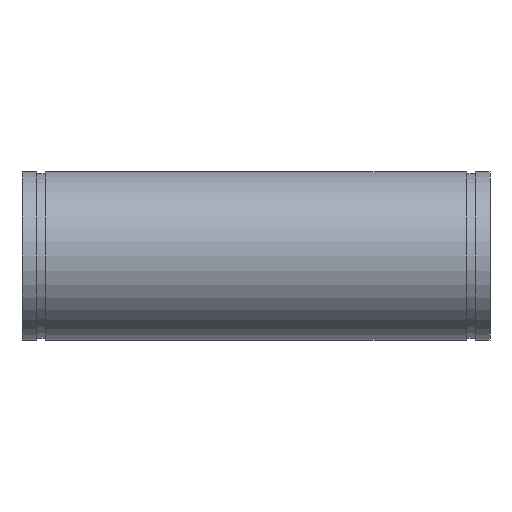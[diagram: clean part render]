
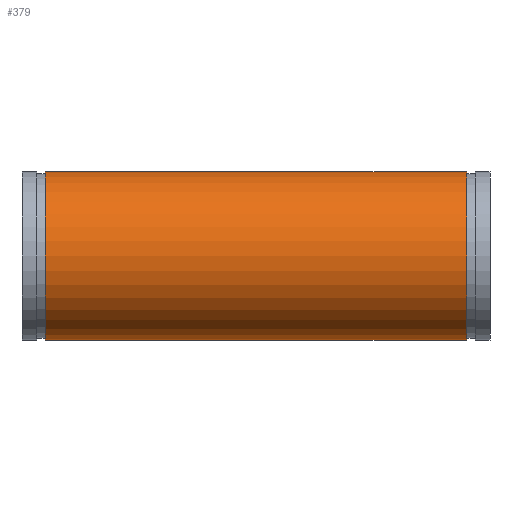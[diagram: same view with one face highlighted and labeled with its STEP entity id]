
A CAD part, left-side view. The second image highlights one B-rep face of the part: STEP entity #379.
In plain terms, the highlighted cylindrical face has radius 109.537 mm (diameter 219.075 mm), a full revolution.
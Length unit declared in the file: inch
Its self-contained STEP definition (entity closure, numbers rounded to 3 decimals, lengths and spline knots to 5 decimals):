
#45=ELLIPSE('',#439,11.26911,4.3125);
#46=ELLIPSE('',#440,11.26911,4.3125);
#47=ELLIPSE('',#441,4.66782,4.3125);
#57=LINE('',#676,#68);
#68=VECTOR('',#544,4.3125);
#79=CYLINDRICAL_SURFACE('',#438,4.3125);
#90=FACE_BOUND('',#131,.T.);
#105=FACE_OUTER_BOUND('',#130,.T.);
#130=EDGE_LOOP('',(#292,#293,#294,#295));
#131=EDGE_LOOP('',(#296,#297,#298));
#154=CIRCLE('',#426,4.3125);
#155=CIRCLE('',#428,4.3125);
#181=VERTEX_POINT('',#653);
#182=VERTEX_POINT('',#656);
#189=VERTEX_POINT('',#677);
#190=VERTEX_POINT('',#678);
#191=VERTEX_POINT('',#680);
#218=EDGE_CURVE('',#181,#181,#154,.T.);
#219=EDGE_CURVE('',#182,#182,#155,.T.);
#228=EDGE_CURVE('',#181,#182,#57,.T.);
#229=EDGE_CURVE('',#189,#190,#45,.T.);
#230=EDGE_CURVE('',#190,#191,#46,.T.);
#231=EDGE_CURVE('',#191,#189,#47,.T.);
#292=ORIENTED_EDGE('',*,*,#218,.T.);
#293=ORIENTED_EDGE('',*,*,#228,.T.);
#294=ORIENTED_EDGE('',*,*,#219,.T.);
#295=ORIENTED_EDGE('',*,*,#228,.F.);
#296=ORIENTED_EDGE('',*,*,#229,.T.);
#297=ORIENTED_EDGE('',*,*,#230,.T.);
#298=ORIENTED_EDGE('',*,*,#231,.T.);
#379=ADVANCED_FACE('',(#105,#90),#79,.T.);
#426=AXIS2_PLACEMENT_3D('',#654,#516,#517);
#428=AXIS2_PLACEMENT_3D('',#657,#520,#521);
#438=AXIS2_PLACEMENT_3D('',#675,#542,#543);
#439=AXIS2_PLACEMENT_3D('',#679,#545,#546);
#440=AXIS2_PLACEMENT_3D('',#681,#547,#548);
#441=AXIS2_PLACEMENT_3D('',#682,#549,#550);
#516=DIRECTION('center_axis',(0.,1.,0.));
#517=DIRECTION('ref_axis',(1.,0.,0.));
#520=DIRECTION('center_axis',(0.,-1.,0.));
#521=DIRECTION('ref_axis',(1.,0.,0.));
#542=DIRECTION('center_axis',(0.,-1.,0.));
#543=DIRECTION('ref_axis',(1.,0.,0.));
#544=DIRECTION('',(0.,1.,0.));
#545=DIRECTION('center_axis',(-0.924,0.383,0.));
#546=DIRECTION('ref_axis',(-0.383,-0.924,0.));
#547=DIRECTION('center_axis',(-0.924,0.383,0.));
#548=DIRECTION('ref_axis',(-0.383,-0.924,0.));
#549=DIRECTION('center_axis',(-0.383,-0.924,0.));
#550=DIRECTION('ref_axis',(0.924,-0.383,0.));
#653=CARTESIAN_POINT('',(-4.3125,-4.812,0.));
#654=CARTESIAN_POINT('Origin',(0.,-4.812,0.));
#656=CARTESIAN_POINT('',(-4.3125,16.812,0.));
#657=CARTESIAN_POINT('Origin',(0.,16.812,0.));
#675=CARTESIAN_POINT('Origin',(0.,18.,0.));
#676=CARTESIAN_POINT('',(-4.3125,18.,0.));
#677=CARTESIAN_POINT('',(0.,0.,4.3125));
#678=CARTESIAN_POINT('',(4.3125,10.4113,0.));
#679=CARTESIAN_POINT('Origin',(0.,0.,0.));
#680=CARTESIAN_POINT('',(0.,0.,-4.3125));
#681=CARTESIAN_POINT('Origin',(0.,0.,0.));
#682=CARTESIAN_POINT('Origin',(0.,0.,0.));
